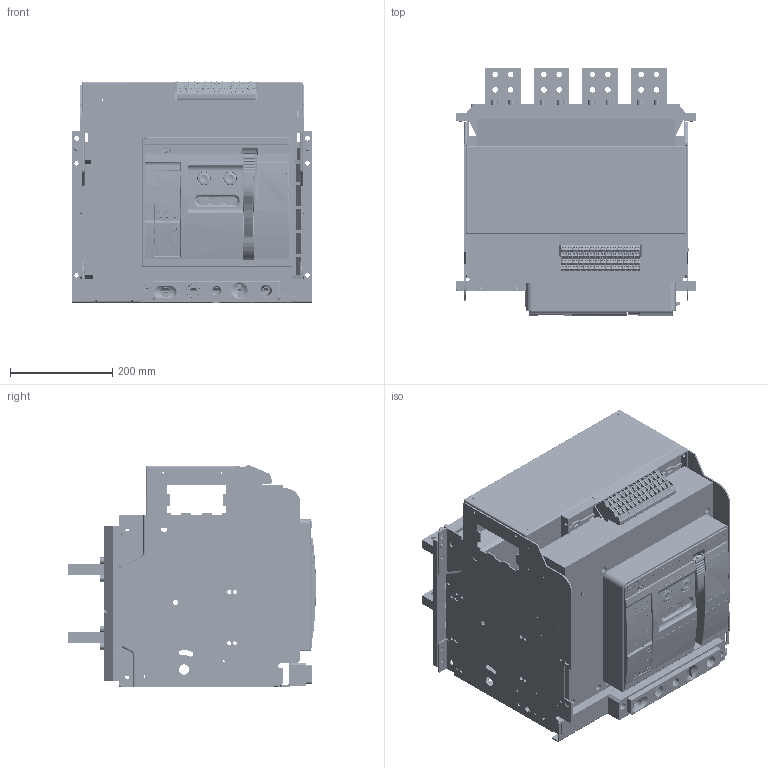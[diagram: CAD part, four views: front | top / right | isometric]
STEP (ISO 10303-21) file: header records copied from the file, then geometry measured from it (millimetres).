
FILE_DESCRIPTION(/* description */ (''),/* implementation_level */ '2;1');
FILE_NAME(/* name */ 'C:/Users/carlos.gonzalez/Documents/ADRIAN_TEMP_DRAWING/Ex9A25_4P_2500_DO_PB_Drawing.step',/* time_stamp */ '2021-10-14T12:40:52+02:00',/* author */ (''),/* organization */ (''),/* preprocessor_version */ 'ST-DEVELOPER v18.1',/* originating_system */ 'Autodesk Translation Framework v10.10.0.1391',/* authorisation */ '');
FILE_SCHEMA (('AUTOMOTIVE_DESIGN { 1 0 10303 214 3 1 1 }'));
Products named in the file (60): Ex9A25_4P_2500_DO; Ex9A25; Auxiliary terminals; 5ZTD-558-695-2500_ASM; 5ZTD-558-712_ASM; 5ZTD-558-712_ASM_1; 5ZTD-558-712_ASM_2; 5ZTD-558-712_ASM_3; 5ZTD-558-712_ASM_4; 5ZTD-558-712_ASM_5; 5ZTD-558-712_ASM_6; 5ZTD-558-712_ASM_7; 5ZTD-558-712_ASM_8; 5ZTD-558-712_ASM_9; 5ZTD-558-712_ASM_10; 5ZTD-558-712_ASM_11; 5ZTD-558-712_ASM_12; 5ZTD-558-712_ASM_13; 8ZTD-024-837; 8ZTD-557-514; 8ZTD-557-515; 8ZTD-557-516; 8ZTD-557-517; M3_GB6170; M3X8_GB818; 8ZTD-141-185; 8ZTD-141-184; 8ZTD-860-699; 8ZTD-064-137; Main terminals; 8580A0412105; GBT70_1-M8X20; GBT93-8; Internal components; 8050A0306130-201804; 25-4P-DIBAN02; 8ZTD_050_654; 8ZTD_300_533; 8ZTD_050_653; 8300A0101107-20170317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
Assembly tree (330 placements, depth 6):
  Ex9A25_4P_2500_DO
    Ex9A25
      Auxiliary terminals
        5ZTD-558-695-2500_ASM
          5ZTD-558-712_ASM
            8ZTD-024-837
            8ZTD-557-514
            8ZTD-557-515
            8ZTD-557-516
            8ZTD-557-517
            M3_GB6170  x4
            M3X8_GB818  x4
            8ZTD-141-185
            8ZTD-141-184
          5ZTD-558-712_ASM_1
            8ZTD-024-837
            8ZTD-557-514
            8ZTD-557-515
            8ZTD-557-516
            8ZTD-557-517
            M3_GB6170  x4
            M3X8_GB818  x4
            8ZTD-141-185
            8ZTD-141-184
          5ZTD-558-712_ASM_2
            8ZTD-024-837
            8ZTD-557-514
            8ZTD-557-515
            8ZTD-557-516
            8ZTD-557-517
            M3_GB6170  x4
            M3X8_GB818  x4
            8ZTD-141-185
            8ZTD-141-184
          5ZTD-558-712_ASM_3
            8ZTD-024-837
            8ZTD-557-514
            8ZTD-557-515
            8ZTD-557-516
            8ZTD-557-517
            M3_GB6170  x4
            M3X8_GB818  x4
            8ZTD-141-185
            8ZTD-141-184
          5ZTD-558-712_ASM_4
            8ZTD-024-837
            8ZTD-557-514
            8ZTD-557-515
            8ZTD-557-516
            8ZTD-557-517
            M3_GB6170  x4
            M3X8_GB818  x4
            8ZTD-141-185
            8ZTD-141-184
          5ZTD-558-712_ASM_5
            8ZTD-024-837
            8ZTD-557-514
            8ZTD-557-515
            8ZTD-557-516
            8ZTD-557-517
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Bounding box: 470.5 x 484.49 x 433.53 mm (x, y, z)
Volume: 16171155.5 mm3; surface area: 3749003.2 mm2
Topology: 308 solids, 371 shells, 23225 faces, 60417 edges, 39229 vertices
Faces by surface type: plane 17788, cylinder 3000, cone 1138, bspline 784, torus 386, sphere 129
Full cylindrical faces by diameter (mm): 2 x539, 2.1 x2, 2.246 x56, 2.5 x3, 2.6 x2, 3 x81, 3.2 x10, 3.4 x3, 3.5 x57, 4 x97, 4.3 x1, 4.5 x4, 5 x27, 5.008 x1, 5.5 x5, 6 x20, 6.1 x1, 6.5 x9, 6.647 x32, 7 x25, 8 x39, 8.3 x2, 8.5 x32, 9 x13, 10 x2, 10.5 x1, 11 x33, 11.5 x1, 12 x7, 12.5 x3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
Entity records: 257103 total; most frequent: CARTESIAN_POINT 91616, ORIENTED_EDGE 34492, DIRECTION 32859, EDGE_CURVE 17293, LINE 12741, VECTOR 12741, VERTEX_POINT 11265, AXIS2_PLACEMENT_3D 10059
